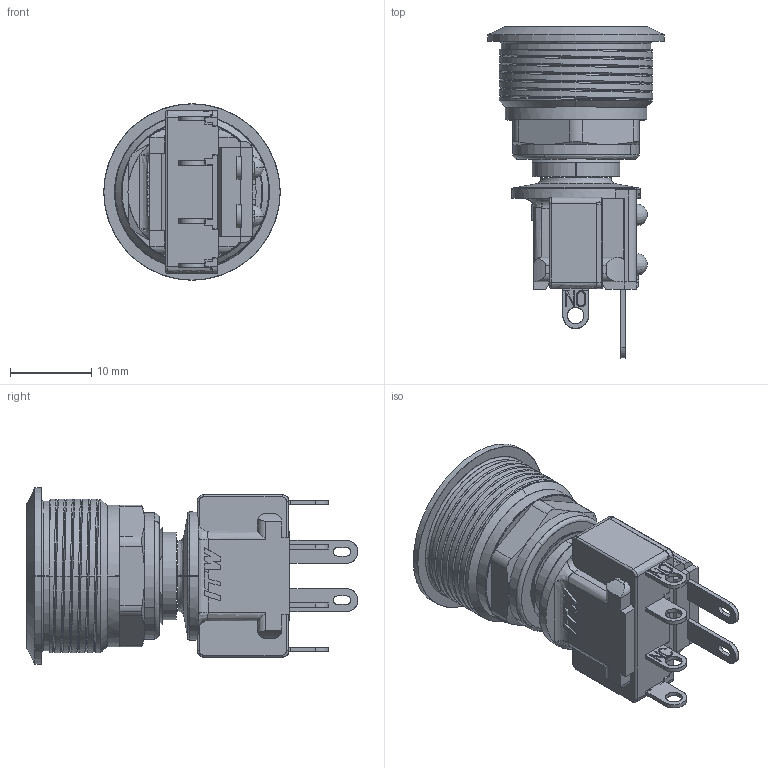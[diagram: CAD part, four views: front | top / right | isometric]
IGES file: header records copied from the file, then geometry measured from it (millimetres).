
Start section: SolidWorks IGES file using analytic representation for surfaces
Global section: file name: C:\Users\淵立\Desktop\project\3D IGS\H48M\H48M-112XXX-4044 & H48M-212XXX-4044.IGS,1; native system: 5HSolidWorks 2014; preprocessor: SolidWorks 2014; author: 淵立,,; organization: 11; date: 150720.104923; units: millimetre
Bounding box: 21.65 x 40.75 x 21.65 mm (x, y, z)
Surface area: 5220.9 mm2 (no closed solid volume)
Topology: 0 solids, 0 shells, 452 faces, 7035 edges, 7027 vertices
Faces by surface type: bspline 304, revolution 148
